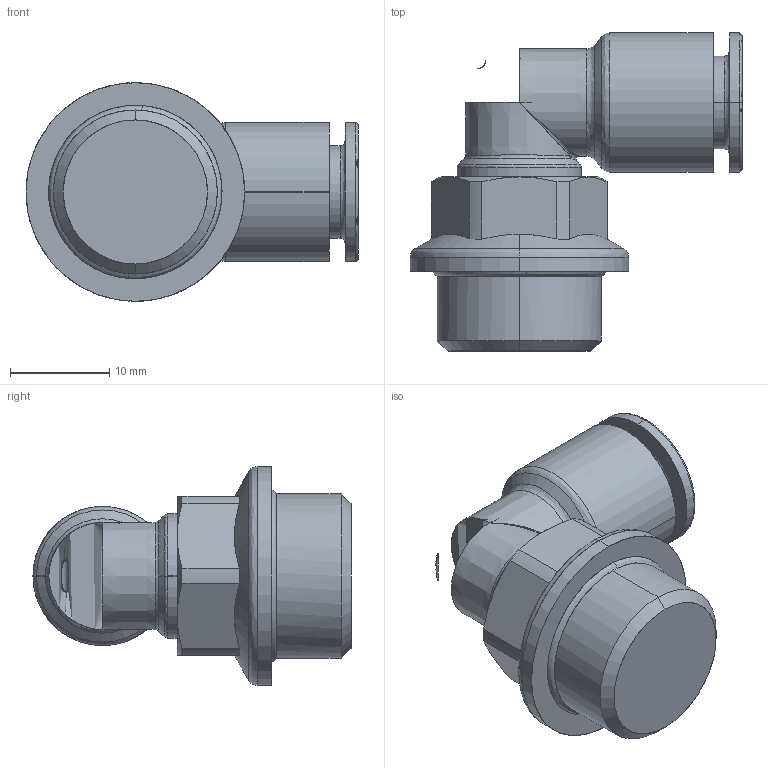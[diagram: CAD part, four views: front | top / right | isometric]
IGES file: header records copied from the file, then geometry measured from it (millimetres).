
Start section: SolidWorks IGES file using analytic representation for surfaces
Global section: file name: K:\Disegni Esecutivi\SERIE 54000\54000-Assiemi\54116\IGES\5411600019A.IGS; native system: SolidWorks 2020; preprocessor: SolidWorks 2020; author: CAD13; date: 240920.082838; units: millimetre
Bounding box: 33.4 x 32 x 22 mm (x, y, z)
Surface area: 3454.5 mm2 (no closed solid volume)
Topology: 0 solids, 0 shells, 234 faces, 2294 edges, 2292 vertices
Faces by surface type: bspline 184, revolution 50
